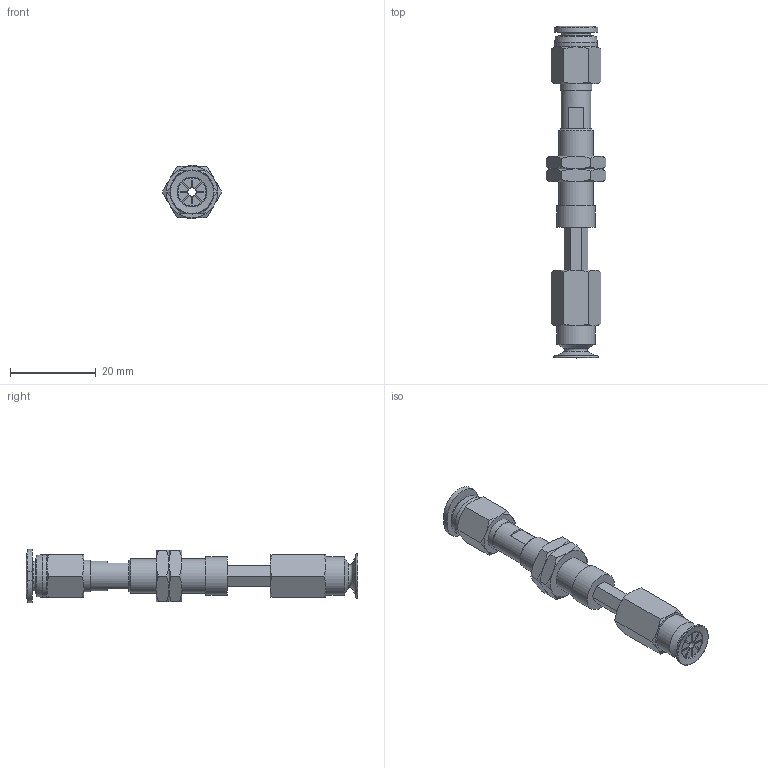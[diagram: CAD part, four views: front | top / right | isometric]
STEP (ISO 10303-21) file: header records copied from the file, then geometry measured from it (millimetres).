
FILE_DESCRIPTION(('STEP AP203'),'1');
FILE_NAME('-O.stp','2025-08-12T08:03:29',(' '),(' '),'Spatial InterOp 3D',' ',' ');
FILE_SCHEMA(('CONFIG_CONTROL_DESIGN'));
Length unit declared in the file: millimetre
Products named in the file (7): BNABPATH-10B-10-※-O; NAPATH-10A-10--F; Nut-10A-S; PC-C_06-M5; BPAG-10B-※; NAPATH-10A-10--M; ADAPTER
Assembly tree (7 placements, depth 2):
  BNABPATH-10B-10-※-O
    NAPATH-10A-10--F
    Nut-10A-S  x2
    PC-C_06-M5
    BPAG-10B-※
    NAPATH-10A-10--M
    ADAPTER
Bounding box: 13.86 x 77.48 x 12.4 mm (x, y, z)
Volume: 4330.3 mm3; surface area: 5253.1 mm2
Topology: 7 solids, 7 shells, 208 faces, 464 edges, 286 vertices
Faces by surface type: plane 94, cone 62, cylinder 32, torus 13, bspline 4, revolution 3
Full cylindrical faces by diameter (mm): 2 x3, 4 x4, 4.134 x1, 5 x1, 6 x2, 7 x3, 7.188 x2, 7.4 x1, 8 x1, 8.2 x1, 9 x2, 10 x1
Entity records: 5598 total; most frequent: CARTESIAN_POINT 1448, DIRECTION 789, ORIENTED_EDGE 716, EDGE_CURVE 358, AXIS2_PLACEMENT_3D 325, EDGE_LOOP 258, VERTEX_POINT 248, FACE_OUTER_BOUND 219
